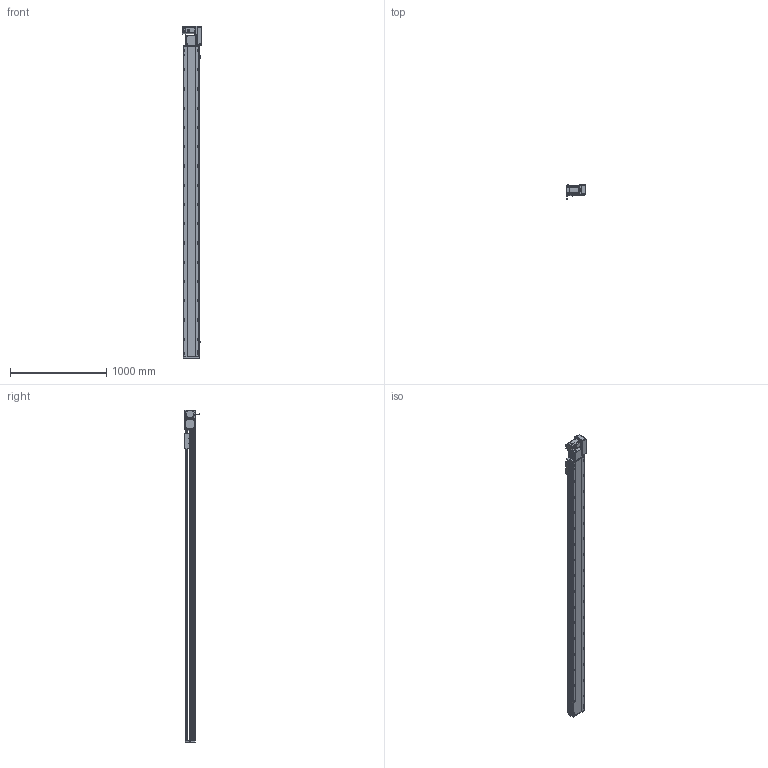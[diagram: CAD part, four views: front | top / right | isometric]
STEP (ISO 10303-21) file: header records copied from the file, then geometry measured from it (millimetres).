
FILE_DESCRIPTION (( 'STEP AP214' ), '1' );
FILE_NAME ('RTB17S-XX-2950-R-M75-C4.STEP', '2025-12-12T01:50:36', ( '' ), ( '' ), 'SwSTEP 2.0', 'SolidWorks 2018', '' );
FILE_SCHEMA (( 'AUTOMOTIVE_DESIGN' ));
Length unit declared in the file: millimetre
Products named in the file (15): RTB17S-R-々湍釱蚾饜-750W^RTB17S-XX-XX-R-M75-C4; RTB17S-L-001-耜醱啣^RTB17S-XX-XX-R-M75-C4; RTB17S-L-004-賑釱^RTB17S-賑釱_RTB17S-XX-XX-R-M75-C4; 750W萇儂^RTB17S-XX-XX-R-M75-C4; EE672^RTB17S-XX-XX-R-M75-C4; RTB17S-賑釱^RTB17S-XX-XX-R-M75-C4; RTB17S-L-014-T20-P75--々湍釱^RTB17S-R-々湍釱蚾饜-750W_RTB17S-XX-XX-R-M75-C4; RTB22S-GY-018P^RTB17S-R-々湍釱蚾饜-750W_RTB17S-XX-XX-R-M75-C4; RTB22S-GY-008-M75--萇儂啣^RTB17S-R-々湍釱蚾饜-750W_RTB17S-XX-XX-R-M75-C4; RTB17-R-011菁釱^RTB17S-XX-XX-R-M75-C4; RTB22S-GY-005P^RTB17S-R-々湍釱蚾饜-750W_RTB17S-XX-XX-R-M75-C4; RTB17S-L-007奻裔^RTB17S-XX-XX-R-M75-C4; RTB22S-GY-017P^RTB17S-R-々湍釱蚾饜-750W_RTB17S-XX-XX-R-M75-C4; RTB17S-XX-2950-R-M75-C4; RTH13-BL-012覜茼え俋离^RTB17S-賑釱_RTB17S-XX-XX-R-M75-C4
Assembly tree (17 placements, depth 3):
  RTB17S-XX-2950-R-M75-C4
    RTB17-R-011菁釱^RTB17S-XX-XX-R-M75-C4
    EE672^RTB17S-XX-XX-R-M75-C4  x3
    RTB17S-L-001-耜醱啣^RTB17S-XX-XX-R-M75-C4
    RTB17S-賑釱^RTB17S-XX-XX-R-M75-C4
      RTB17S-L-004-賑釱^RTB17S-賑釱_RTB17S-XX-XX-R-M75-C4
      RTH13-BL-012覜茼え俋离^RTB17S-賑釱_RTB17S-XX-XX-R-M75-C4
    RTB17S-L-007奻裔^RTB17S-XX-XX-R-M75-C4
    750W萇儂^RTB17S-XX-XX-R-M75-C4
    RTB17S-R-々湍釱蚾饜-750W^RTB17S-XX-XX-R-M75-C4
      RTB17S-L-014-T20-P75--々湍釱^RTB17S-R-々湍釱蚾饜-750W_RTB17S-XX-XX-R-M75-C4
      RTB22S-GY-005P^RTB17S-R-々湍釱蚾饜-750W_RTB17S-XX-XX-R-M75-C4
      RTB22S-GY-017P^RTB17S-R-々湍釱蚾饜-750W_RTB17S-XX-XX-R-M75-C4  x2
      RTB22S-GY-008-M75--萇儂啣^RTB17S-R-々湍釱蚾饜-750W_RTB17S-XX-XX-R-M75-C4
      RTB22S-GY-018P^RTB17S-R-々湍釱蚾饜-750W_RTB17S-XX-XX-R-M75-C4
Bounding box: 207.4 x 152.7 x 3449 mm (x, y, z)
Volume: 24390898.8 mm3; surface area: 4466161 mm2
Topology: 17 solids, 17 shells, 2249 faces, 6322 edges, 4094 vertices
Faces by surface type: plane 990, cylinder 843, bspline 294, cone 110, sphere 8, torus 4
Entity records: 65782 total; most frequent: CARTESIAN_POINT 19586, ORIENTED_EDGE 9488, DIRECTION 8762, EDGE_CURVE 4744, AXIS2_PLACEMENT_3D 3114, VERTEX_POINT 3098, VECTOR 2534, LINE 2534
